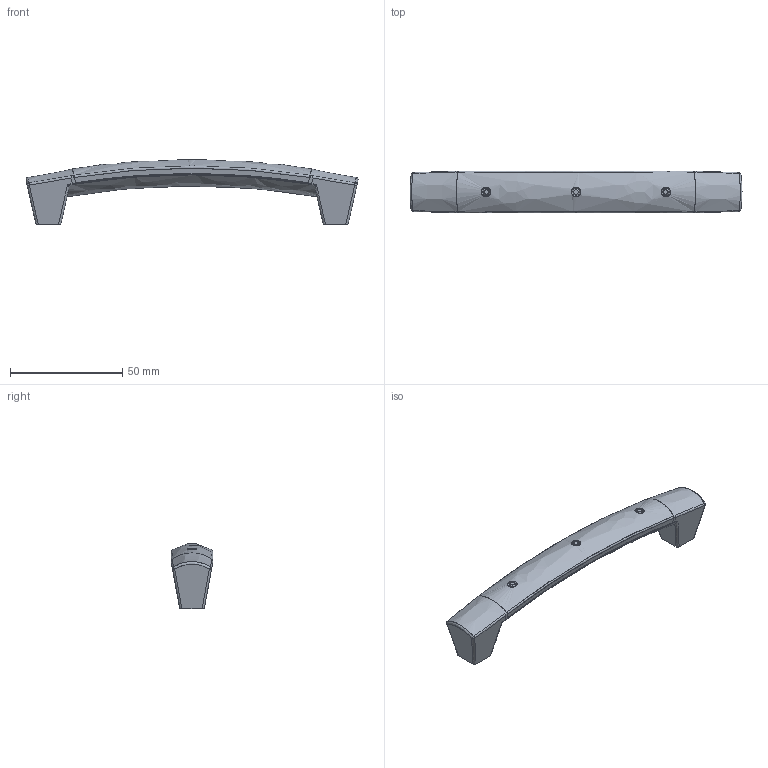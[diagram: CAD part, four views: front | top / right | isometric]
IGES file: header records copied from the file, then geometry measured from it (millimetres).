
Start section: C
Global section: file name: 8046-148.igs; native system: By Siemens PLM Incorporated; preprocessor: XPlus GENERIC/IGES 16.0.42; author: Author; organization: Title; date: 20231128.133126; units: millimetre
Bounding box: 147.94 x 18.54 x 29 mm (x, y, z)
Surface area: 16376.5 mm2 (no closed solid volume)
Topology: 0 solids, 0 shells, 216 faces, 1140 edges, 1140 vertices
Faces by surface type: bspline 216
